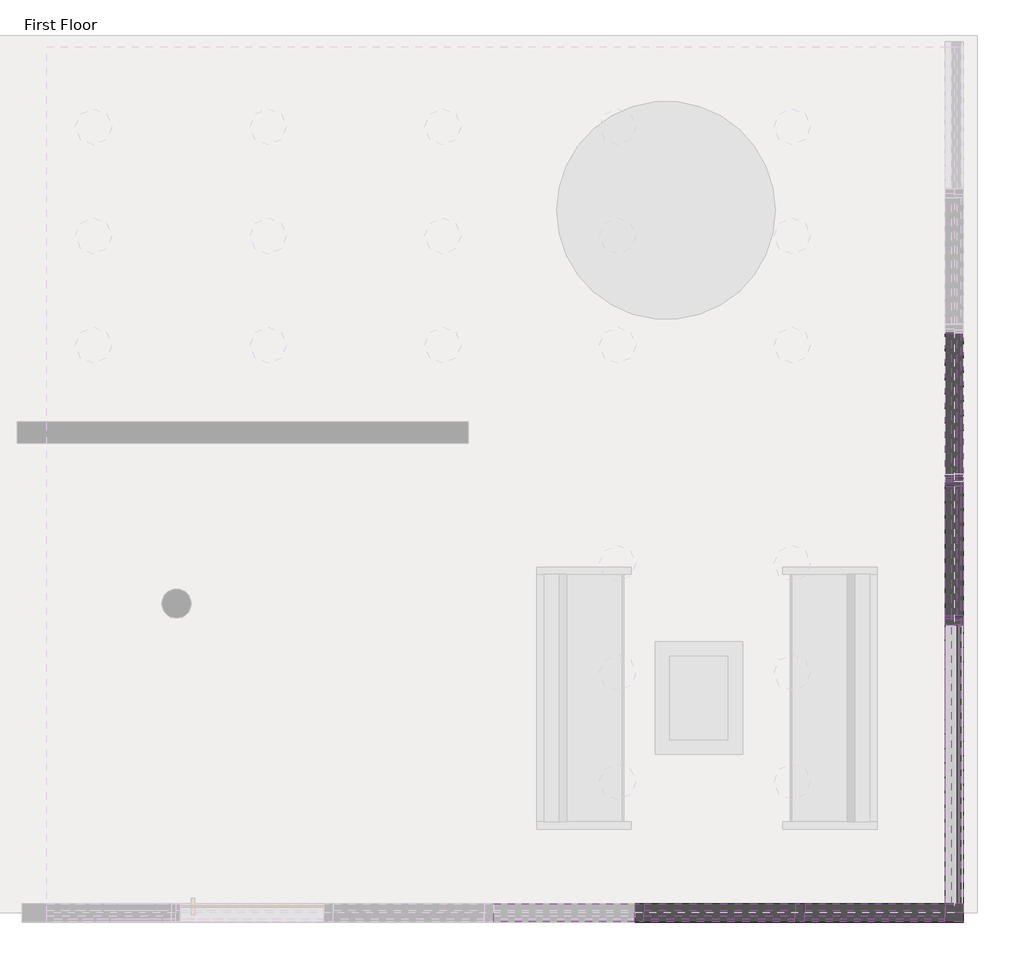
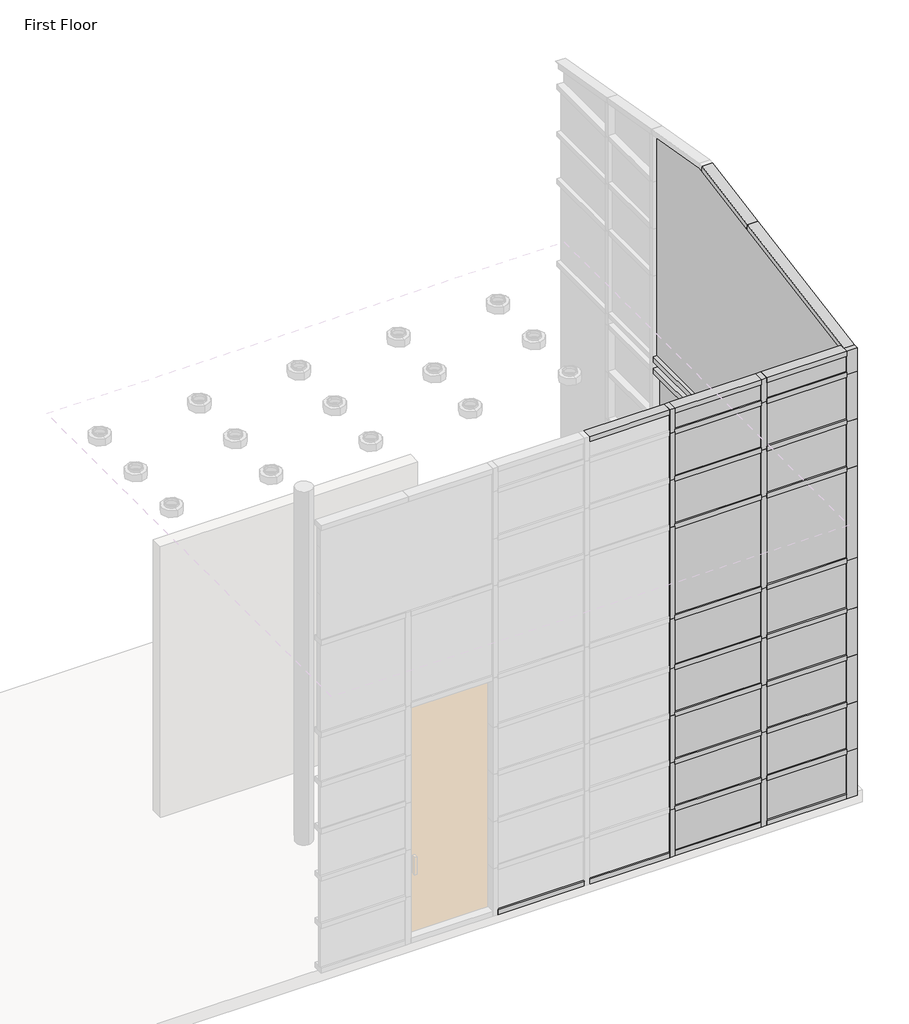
# One storey, part 4 of 5: 77 members, 31 plates.
"""IFC4 building model written with IfcOpenShell, lengths in millimetres."""

from ifc_helpers import new_model, si_unit, origin, place, context, project, spatial, transform, mapped, element, save
from components import member_f9488aa6, member_61850fe3, member_cf64a30b, member_1d60c77e, rectangular_mullion_rectangular_mullion_1_51170729, rectangular_mullion_rectangular_mullion_1_6e77e263, rectangular_mullion_rectangular_mullion_1_75d1e245, rectangular_mullion_rectangular_mullion_1_31744042, rectangular_mullion_rectangular_mullion_1_d7ed0fb9, rectangular_mullion_rectangular_mullion_1_7275bfda, rectangular_mullion_rectangular_mullion_1_b3f2e294, rectangular_mullion_rectangular_mullion_1_fc7f002c, rectangular_mullion_rectangular_mullion_1_369ed99d, rectangular_mullion_rectangular_mullion_1_8e31e22d, rectangular_mullion_rectangular_mullion_1_47123520, rectangular_mullion_rectangular_mullion_1_4af42d76, rectangular_mullion_rectangular_mullion_1_c8f1c27a, rectangular_mullion_rectangular_mullion_1_5249c285, rectangular_mullion_rectangular_mullion_1_ab2acac1, rectangular_mullion_rectangular_mullion_1_227d3ff1, rectangular_mullion_rectangular_mullion_1_0dc72f1f, rectangular_mullion_rectangular_mullion_1_51b61bf9, rectangular_mullion_rectangular_mullion_1_4efc3ea5, system_panel_glazed_664bf825, system_panel_glazed_f51451db, system_panel_glazed_ae41f1da, system_panel_glazed_1f20e292, system_panel_glazed_f780a407, system_panel_glazed_f4e0d20e, system_panel_glazed_d7765e30, system_panel_glazed_9d1674b2, system_panel_glazed_a1942897, system_panel_glazed_5efc551b, system_panel_solid_grey_713b1532, system_panel_solid_grey_88e7eaec, system_panel_solid_grey_35677c19, system_panel_solid_grey_7d6e94b4, system_panel_solid_white_d6818c59, system_panel_solid_white_f1b6422f, system_panel_solid_white_12cb0d74, system_panel_solid_white_223e5efe, system_panel_solid_white_6c12217a, system_panel_solid_white_34ebdb4f, system_panel_solid_white_47daa927

model = new_model("IFC4")

# Units and contexts
model_context = context("Model", 3, world=origin())
ifc_project = project(units=[si_unit("LENGTHUNIT", "METRE", prefix="MILLI")], contexts=[model_context])

# Site, building, storey
site = spatial("IfcSite", under=ifc_project)
building = spatial("IfcBuilding", under=site)
storey = spatial("IfcBuildingStorey", under=building, Name="First Floor", Elevation=0.0)

# Members
placement = place(None, origin())
member_shape = member_f9488aa6(model_context)
element("IfcMember", 1, ObjectType="Quad Corner Mullion : 3\" x 1 1/2\" Quad Mullion", at=placement, inside=storey, context=model_context, shape_type="MappedRepresentation", body=[
    mapped(member_shape, transform((4563.0282307, 6074.9400612, 2438.4), x_axis=(1.0, 0.0, 0.0), y_axis=(0.0, 1.0, 0.0), z_axis=(0.0, 0.0, 1.0))),
])
element("IfcMember", 2, ObjectType="Quad Corner Mullion : 3\" x 1 1/2\" Quad Mullion", at=placement, inside=storey, context=model_context, shape_type="MappedRepresentation", body=[
    mapped(member_shape, transform((4563.0282307, 6074.9400612, 1219.2), x_axis=(1.0, 0.0, 0.0), y_axis=(0.0, 1.0, 0.0), z_axis=(0.0, 0.0, 1.0))),
])
element("IfcMember", 3, ObjectType="Quad Corner Mullion : 3\" x 1 1/2\" Quad Mullion", at=placement, inside=storey, context=model_context, shape_type="MappedRepresentation", body=[
    mapped(member_shape, transform((4563.0282307, 6074.9400612, 5486.4), x_axis=(1.0, 0.0, 0.0), y_axis=(0.0, 1.0, 0.0), z_axis=(0.0, 0.0, 1.0))),
])
element("IfcMember", 4, ObjectType="Quad Corner Mullion : 3\" x 1 1/2\" Quad Mullion", at=placement, inside=storey, context=model_context, shape_type="MappedRepresentation", body=[
    mapped(member_shape, transform((4563.0282307, 6074.9400612, 4876.8), x_axis=(1.0, 0.0, 0.0), y_axis=(0.0, 1.0, 0.0), z_axis=(0.0, 0.0, 1.0))),
])
element("IfcMember", 5, ObjectType="Quad Corner Mullion : 3\" x 1 1/2\" Quad Mullion", at=placement, inside=storey, context=model_context, shape_type="MappedRepresentation", body=[
    mapped(member_shape, transform((4563.0282307, 6074.9400612, 1828.8), x_axis=(1.0, 0.0, 0.0), y_axis=(0.0, 1.0, 0.0), z_axis=(0.0, 0.0, 1.0))),
])
member_2_shape = member_61850fe3(model_context)
element("IfcMember", 6, ObjectType="Quad Corner Mullion : 3\" x 1 1/2\" Quad Mullion", at=placement, inside=storey, context=model_context, shape_type="MappedRepresentation", body=[
    mapped(member_2_shape, transform((4563.0282307, 6074.9400612, 5791.2), x_axis=(1.0, 0.0, 0.0), y_axis=(0.0, 1.0, 0.0), z_axis=(0.0, 0.0, 1.0))),
])
element("IfcMember", 7, ObjectType="Quad Corner Mullion : 3\" x 1 1/2\" Quad Mullion", at=placement, inside=storey, context=model_context, shape_type="MappedRepresentation", body=[
    mapped(member_shape, transform((4563.0282307, 6074.9400612, 609.6), x_axis=(1.0, 0.0, 0.0), y_axis=(0.0, 1.0, 0.0), z_axis=(0.0, 0.0, 1.0))),
])
member_3_shape = member_cf64a30b(model_context)
element("IfcMember", 8, ObjectType="Quad Corner Mullion : 3\" x 1 1/2\" Quad Mullion", at=placement, inside=storey, context=model_context, shape_type="MappedRepresentation", body=[
    mapped(member_3_shape, transform((4563.0282307, 6074.9400612, 4267.2), x_axis=(1.0, 0.0, 0.0), y_axis=(0.0, 1.0, 0.0), z_axis=(0.0, 0.0, 1.0))),
])
member_4_shape = member_1d60c77e(model_context)
element("IfcMember", 9, ObjectType="Quad Corner Mullion : 3\" x 1 1/2\" Quad Mullion", at=placement, inside=storey, context=model_context, shape_type="MappedRepresentation", body=[
    mapped(member_4_shape, transform((4563.0282307, 6074.9400612, 3079.75), x_axis=(1.0, 0.0, 0.0), y_axis=(0.0, 1.0, 0.0), z_axis=(0.0, 0.0, 1.0))),
])
rectangular_mullion_rectangular_mullion_1_shape = rectangular_mullion_rectangular_mullion_1_51170729(model_context)
element("IfcMember", 10, ObjectType="Rectangular Mullion : Rectangular Mullion 1", at=placement, inside=storey, context=model_context, shape_type="MappedRepresentation", body=[
    mapped(rectangular_mullion_rectangular_mullion_1_shape, transform((4563.0282307, 9084.8400612, 2438.4), x_axis=(0.0, -1.0, 0.0), y_axis=(-1.0, 0.0, 0.0), z_axis=(0.0, 0.0, -1.0))),
])
rectangular_mullion_rectangular_mullion_1_2_shape = rectangular_mullion_rectangular_mullion_1_6e77e263(model_context)
element("IfcMember", 11, ObjectType="Rectangular Mullion : Rectangular Mullion 1", at=placement, inside=storey, context=model_context, shape_type="MappedRepresentation", body=[
    mapped(rectangular_mullion_rectangular_mullion_1_2_shape, transform((2363.2068019, 6074.9400612, 0.0), x_axis=(-1.0, 0.0, 0.0), y_axis=(0.0, 1.0, 0.0), z_axis=(0.0, 0.0, -1.0))),
])
element("IfcMember", 12, ObjectType="Rectangular Mullion : Rectangular Mullion 1", at=placement, inside=storey, context=model_context, shape_type="MappedRepresentation", body=[
    mapped(rectangular_mullion_rectangular_mullion_1_2_shape, transform((4563.0282307, 8118.414355, 0.0), x_axis=(0.0, -1.0, 0.0), y_axis=(-1.0, 0.0, 0.0), z_axis=(0.0, 0.0, -1.0))),
])
element("IfcMember", 13, ObjectType="Rectangular Mullion : Rectangular Mullion 1", at=placement, inside=storey, context=model_context, shape_type="MappedRepresentation", body=[
    mapped(rectangular_mullion_rectangular_mullion_1_2_shape, transform((3485.7960878, 6074.9400612, 0.0), x_axis=(-1.0, 0.0, 0.0), y_axis=(0.0, 1.0, 0.0), z_axis=(0.0, 0.0, -1.0))),
])
element("IfcMember", 14, ObjectType="Rectangular Mullion : Rectangular Mullion 1", at=placement, inside=storey, context=model_context, shape_type="MappedRepresentation", body=[
    mapped(rectangular_mullion_rectangular_mullion_1_2_shape, transform((4563.0282307, 9084.8400612, 0.0), x_axis=(0.0, -1.0, 0.0), y_axis=(-1.0, 0.0, 0.0), z_axis=(0.0, 0.0, -1.0))),
])
element("IfcMember", 15, ObjectType="Rectangular Mullion : Rectangular Mullion 1", at=placement, inside=storey, context=model_context, shape_type="MappedRepresentation", body=[
    mapped(rectangular_mullion_rectangular_mullion_1_2_shape, transform((3485.7960878, 6074.9400612, 1219.2), x_axis=(-1.0, 0.0, 0.0), y_axis=(0.0, 1.0, 0.0), z_axis=(0.0, 0.0, -1.0))),
])
element("IfcMember", 16, ObjectType="Rectangular Mullion : Rectangular Mullion 1", at=placement, inside=storey, context=model_context, shape_type="MappedRepresentation", body=[
    mapped(rectangular_mullion_rectangular_mullion_1_2_shape, transform((2363.2068019, 6074.9400612, 1219.2), x_axis=(-1.0, 0.0, 0.0), y_axis=(0.0, 1.0, 0.0), z_axis=(0.0, 0.0, -1.0))),
])
element("IfcMember", 17, ObjectType="Rectangular Mullion : Rectangular Mullion 1", at=placement, inside=storey, context=model_context, shape_type="MappedRepresentation", body=[
    mapped(rectangular_mullion_rectangular_mullion_1_2_shape, transform((3485.7960878, 6074.9400612, 1828.8), x_axis=(-1.0, 0.0, 0.0), y_axis=(0.0, 1.0, 0.0), z_axis=(0.0, 0.0, -1.0))),
])
element("IfcMember", 18, ObjectType="Rectangular Mullion : Rectangular Mullion 1", at=placement, inside=storey, context=model_context, shape_type="MappedRepresentation", body=[
    mapped(rectangular_mullion_rectangular_mullion_1_2_shape, transform((2363.2068019, 6074.9400612, 1828.8), x_axis=(-1.0, 0.0, 0.0), y_axis=(0.0, 1.0, 0.0), z_axis=(0.0, 0.0, -1.0))),
])
element("IfcMember", 19, ObjectType="Rectangular Mullion : Rectangular Mullion 1", at=placement, inside=storey, context=model_context, shape_type="MappedRepresentation", body=[
    mapped(rectangular_mullion_rectangular_mullion_1_2_shape, transform((3485.7960878, 6074.9400612, 609.6), x_axis=(-1.0, 0.0, 0.0), y_axis=(0.0, 1.0, 0.0), z_axis=(0.0, 0.0, -1.0))),
])
element("IfcMember", 20, ObjectType="Rectangular Mullion : Rectangular Mullion 1", at=placement, inside=storey, context=model_context, shape_type="MappedRepresentation", body=[
    mapped(rectangular_mullion_rectangular_mullion_1_2_shape, transform((2363.2068019, 6074.9400612, 609.6), x_axis=(-1.0, 0.0, 0.0), y_axis=(0.0, 1.0, 0.0), z_axis=(0.0, 0.0, -1.0))),
])
element("IfcMember", 21, ObjectType="Rectangular Mullion : Rectangular Mullion 1", at=placement, inside=storey, context=model_context, shape_type="MappedRepresentation", body=[
    mapped(rectangular_mullion_rectangular_mullion_1_2_shape, transform((3485.7960878, 6074.9400612, 4876.8), x_axis=(-1.0, 0.0, 0.0), y_axis=(0.0, 1.0, 0.0), z_axis=(0.0, 0.0, -1.0))),
])
element("IfcMember", 22, ObjectType="Rectangular Mullion : Rectangular Mullion 1", at=placement, inside=storey, context=model_context, shape_type="MappedRepresentation", body=[
    mapped(rectangular_mullion_rectangular_mullion_1_2_shape, transform((2363.2068019, 6074.9400612, 4876.8), x_axis=(-1.0, 0.0, 0.0), y_axis=(0.0, 1.0, 0.0), z_axis=(0.0, 0.0, -1.0))),
])
element("IfcMember", 23, ObjectType="Rectangular Mullion : Rectangular Mullion 1", at=placement, inside=storey, context=model_context, shape_type="MappedRepresentation", body=[
    mapped(rectangular_mullion_rectangular_mullion_1_2_shape, transform((3485.7960878, 6074.9400612, 4267.2), x_axis=(-1.0, 0.0, 0.0), y_axis=(0.0, 1.0, 0.0), z_axis=(0.0, 0.0, -1.0))),
])
element("IfcMember", 24, ObjectType="Rectangular Mullion : Rectangular Mullion 1", at=placement, inside=storey, context=model_context, shape_type="MappedRepresentation", body=[
    mapped(rectangular_mullion_rectangular_mullion_1_2_shape, transform((2363.2068019, 6074.9400612, 4267.2), x_axis=(-1.0, 0.0, 0.0), y_axis=(0.0, 1.0, 0.0), z_axis=(0.0, 0.0, -1.0))),
])
element("IfcMember", 25, ObjectType="Rectangular Mullion : Rectangular Mullion 1", at=placement, inside=storey, context=model_context, shape_type="MappedRepresentation", body=[
    mapped(rectangular_mullion_rectangular_mullion_1_2_shape, transform((4563.0282307, 8118.414355, 2438.4), x_axis=(0.0, -1.0, 0.0), y_axis=(-1.0, 0.0, 0.0), z_axis=(0.0, 0.0, -1.0))),
])
element("IfcMember", 26, ObjectType="Rectangular Mullion : Rectangular Mullion 1", at=placement, inside=storey, context=model_context, shape_type="MappedRepresentation", body=[
    mapped(rectangular_mullion_rectangular_mullion_1_2_shape, transform((4563.0282307, 9084.8400612, 1219.2), x_axis=(0.0, -1.0, 0.0), y_axis=(-1.0, 0.0, 0.0), z_axis=(0.0, 0.0, -1.0))),
])
element("IfcMember", 27, ObjectType="Rectangular Mullion : Rectangular Mullion 1", at=placement, inside=storey, context=model_context, shape_type="MappedRepresentation", body=[
    mapped(rectangular_mullion_rectangular_mullion_1_2_shape, transform((4563.0282307, 8118.414355, 1219.2), x_axis=(0.0, -1.0, 0.0), y_axis=(-1.0, 0.0, 0.0), z_axis=(0.0, 0.0, -1.0))),
])
element("IfcMember", 28, ObjectType="Rectangular Mullion : Rectangular Mullion 1", at=placement, inside=storey, context=model_context, shape_type="MappedRepresentation", body=[
    mapped(rectangular_mullion_rectangular_mullion_1_2_shape, transform((4563.0282307, 9084.8400612, 1828.8), x_axis=(0.0, -1.0, 0.0), y_axis=(-1.0, 0.0, 0.0), z_axis=(0.0, 0.0, -1.0))),
])
element("IfcMember", 29, ObjectType="Rectangular Mullion : Rectangular Mullion 1", at=placement, inside=storey, context=model_context, shape_type="MappedRepresentation", body=[
    mapped(rectangular_mullion_rectangular_mullion_1_2_shape, transform((4563.0282307, 8118.414355, 1828.8), x_axis=(0.0, -1.0, 0.0), y_axis=(-1.0, 0.0, 0.0), z_axis=(0.0, 0.0, -1.0))),
])
element("IfcMember", 30, ObjectType="Rectangular Mullion : Rectangular Mullion 1", at=placement, inside=storey, context=model_context, shape_type="MappedRepresentation", body=[
    mapped(rectangular_mullion_rectangular_mullion_1_2_shape, transform((4563.0282307, 9084.8400612, 609.6), x_axis=(0.0, -1.0, 0.0), y_axis=(-1.0, 0.0, 0.0), z_axis=(0.0, 0.0, -1.0))),
])
element("IfcMember", 31, ObjectType="Rectangular Mullion : Rectangular Mullion 1", at=placement, inside=storey, context=model_context, shape_type="MappedRepresentation", body=[
    mapped(rectangular_mullion_rectangular_mullion_1_2_shape, transform((4563.0282307, 8118.414355, 609.6), x_axis=(0.0, -1.0, 0.0), y_axis=(-1.0, 0.0, 0.0), z_axis=(0.0, 0.0, -1.0))),
])
rectangular_mullion_rectangular_mullion_1_3_shape = rectangular_mullion_rectangular_mullion_1_75d1e245(model_context)
element("IfcMember", 32, ObjectType="Rectangular Mullion : Rectangular Mullion 1", at=placement, inside=storey, context=model_context, shape_type="MappedRepresentation", body=[
    mapped(rectangular_mullion_rectangular_mullion_1_3_shape, transform((3485.7960878, 6074.9400612, 5486.4), x_axis=(-1.0, 0.0, 0.0), y_axis=(0.0, 1.0, 0.0), z_axis=(0.0, 0.0, -1.0))),
])
element("IfcMember", 33, ObjectType="Rectangular Mullion : Rectangular Mullion 1", at=placement, inside=storey, context=model_context, shape_type="MappedRepresentation", body=[
    mapped(rectangular_mullion_rectangular_mullion_1_3_shape, transform((2363.2068019, 6074.9400612, 5486.4), x_axis=(-1.0, 0.0, 0.0), y_axis=(0.0, 1.0, 0.0), z_axis=(0.0, 0.0, -1.0))),
])
rectangular_mullion_rectangular_mullion_1_4_shape = rectangular_mullion_rectangular_mullion_1_31744042(model_context)
element("IfcMember", 34, ObjectType="Rectangular Mullion : Rectangular Mullion 1", at=placement, inside=storey, context=model_context, shape_type="MappedRepresentation", body=[
    mapped(rectangular_mullion_rectangular_mullion_1_4_shape, transform((4563.0282307, 8118.414355, 3048.0), x_axis=(0.0, -1.0, 0.0), y_axis=(-1.0, 0.0, 0.0), z_axis=(0.0, 0.0, -1.0))),
])
rectangular_mullion_rectangular_mullion_1_5_shape = rectangular_mullion_rectangular_mullion_1_d7ed0fb9(model_context)
element("IfcMember", 35, ObjectType="Rectangular Mullion : Rectangular Mullion 1", at=placement, inside=storey, context=model_context, shape_type="MappedRepresentation", body=[
    mapped(rectangular_mullion_rectangular_mullion_1_5_shape, transform((3517.5460878, 6074.9400612, 3079.75), x_axis=(0.0, 0.0, 1.0), y_axis=(0.0, 1.0, 0.0), z_axis=(-1.0, 0.0, 0.0))),
])
element("IfcMember", 36, ObjectType="Rectangular Mullion : Rectangular Mullion 1", at=placement, inside=storey, context=model_context, shape_type="MappedRepresentation", body=[
    mapped(rectangular_mullion_rectangular_mullion_1_5_shape, transform((3517.5460878, 6074.9400612, 2438.4), x_axis=(0.0, 0.0, 1.0), y_axis=(0.0, 1.0, 0.0), z_axis=(-1.0, 0.0, 0.0))),
])
element("IfcMember", 37, ObjectType="Rectangular Mullion : Rectangular Mullion 1", at=placement, inside=storey, context=model_context, shape_type="MappedRepresentation", body=[
    mapped(rectangular_mullion_rectangular_mullion_1_5_shape, transform((3517.5460878, 6074.9400612, 1219.2), x_axis=(0.0, 0.0, 1.0), y_axis=(0.0, 1.0, 0.0), z_axis=(-1.0, 0.0, 0.0))),
])
element("IfcMember", 38, ObjectType="Rectangular Mullion : Rectangular Mullion 1", at=placement, inside=storey, context=model_context, shape_type="MappedRepresentation", body=[
    mapped(rectangular_mullion_rectangular_mullion_1_5_shape, transform((3517.5460878, 6074.9400612, 1828.8), x_axis=(0.0, 0.0, 1.0), y_axis=(0.0, 1.0, 0.0), z_axis=(-1.0, 0.0, 0.0))),
])
element("IfcMember", 39, ObjectType="Rectangular Mullion : Rectangular Mullion 1", at=placement, inside=storey, context=model_context, shape_type="MappedRepresentation", body=[
    mapped(rectangular_mullion_rectangular_mullion_1_5_shape, transform((3517.5460878, 6074.9400612, 609.6), x_axis=(0.0, 0.0, 1.0), y_axis=(0.0, 1.0, 0.0), z_axis=(-1.0, 0.0, 0.0))),
])
element("IfcMember", 40, ObjectType="Rectangular Mullion : Rectangular Mullion 1", at=placement, inside=storey, context=model_context, shape_type="MappedRepresentation", body=[
    mapped(rectangular_mullion_rectangular_mullion_1_5_shape, transform((3517.5460878, 6074.9400612, 4876.8), x_axis=(0.0, 0.0, 1.0), y_axis=(0.0, 1.0, 0.0), z_axis=(-1.0, 0.0, 0.0))),
])
element("IfcMember", 41, ObjectType="Rectangular Mullion : Rectangular Mullion 1", at=placement, inside=storey, context=model_context, shape_type="MappedRepresentation", body=[
    mapped(rectangular_mullion_rectangular_mullion_1_5_shape, transform((3517.5460878, 6074.9400612, 5486.4), x_axis=(0.0, 0.0, 1.0), y_axis=(0.0, 1.0, 0.0), z_axis=(-1.0, 0.0, 0.0))),
])
element("IfcMember", 42, ObjectType="Rectangular Mullion : Rectangular Mullion 1", at=placement, inside=storey, context=model_context, shape_type="MappedRepresentation", body=[
    mapped(rectangular_mullion_rectangular_mullion_1_5_shape, transform((3517.5460878, 6074.9400612, 4267.2), x_axis=(0.0, 0.0, 1.0), y_axis=(0.0, 1.0, 0.0), z_axis=(-1.0, 0.0, 0.0))),
])
rectangular_mullion_rectangular_mullion_1_6_shape = rectangular_mullion_rectangular_mullion_1_7275bfda(model_context)
element("IfcMember", 43, ObjectType="Rectangular Mullion : Rectangular Mullion 1", at=placement, inside=storey, context=model_context, shape_type="MappedRepresentation", body=[
    mapped(rectangular_mullion_rectangular_mullion_1_6_shape, transform((4499.5282307, 6074.9400612, 0.0), x_axis=(0.0, 0.0, -1.0), y_axis=(0.0, 1.0, 0.0), z_axis=(1.0, 0.0, 0.0))),
])
element("IfcMember", 44, ObjectType="Rectangular Mullion : Rectangular Mullion 1", at=placement, inside=storey, context=model_context, shape_type="MappedRepresentation", body=[
    mapped(rectangular_mullion_rectangular_mullion_1_6_shape, transform((3517.5460878, 6074.9400612, 5791.2), x_axis=(0.0, 0.0, 1.0), y_axis=(0.0, 1.0, 0.0), z_axis=(-1.0, 0.0, 0.0))),
])
element("IfcMember", 45, ObjectType="Rectangular Mullion : Rectangular Mullion 1", at=placement, inside=storey, context=model_context, shape_type="MappedRepresentation", body=[
    mapped(rectangular_mullion_rectangular_mullion_1_shape, transform((3485.7960878, 6074.9400612, 2438.4), x_axis=(-1.0, 0.0, 0.0), y_axis=(0.0, 1.0, 0.0), z_axis=(0.0, 0.0, -1.0))),
])
element("IfcMember", 46, ObjectType="Rectangular Mullion : Rectangular Mullion 1", at=placement, inside=storey, context=model_context, shape_type="MappedRepresentation", body=[
    mapped(rectangular_mullion_rectangular_mullion_1_shape, transform((2363.2068019, 6074.9400612, 2438.4), x_axis=(-1.0, 0.0, 0.0), y_axis=(0.0, 1.0, 0.0), z_axis=(0.0, 0.0, -1.0))),
])
rectangular_mullion_rectangular_mullion_1_7_shape = rectangular_mullion_rectangular_mullion_1_b3f2e294(model_context)
element("IfcMember", 47, ObjectType="Rectangular Mullion : Rectangular Mullion 1", at=placement, inside=storey, context=model_context, shape_type="MappedRepresentation", body=[
    mapped(rectangular_mullion_rectangular_mullion_1_7_shape, transform((3485.7960878, 6074.9400612, 3079.75), x_axis=(-1.0, 0.0, 0.0), y_axis=(0.0, 1.0, 0.0), z_axis=(0.0, 0.0, -1.0))),
])
element("IfcMember", 48, ObjectType="Rectangular Mullion : Rectangular Mullion 1", at=placement, inside=storey, context=model_context, shape_type="MappedRepresentation", body=[
    mapped(rectangular_mullion_rectangular_mullion_1_7_shape, transform((2363.2068019, 6074.9400612, 3079.75), x_axis=(-1.0, 0.0, 0.0), y_axis=(0.0, 1.0, 0.0), z_axis=(0.0, 0.0, -1.0))),
])
rectangular_mullion_rectangular_mullion_1_8_shape = rectangular_mullion_rectangular_mullion_1_fc7f002c(model_context)
element("IfcMember", 49, ObjectType="Rectangular Mullion : Rectangular Mullion 1", at=placement, inside=storey, context=model_context, shape_type="MappedRepresentation", body=[
    mapped(rectangular_mullion_rectangular_mullion_1_8_shape, transform((4563.0282307, 9084.8400612, 3197.1919949), x_axis=(0.0, 0.0, 1.0), y_axis=(-1.0, 0.0, 0.0), z_axis=(0.0, -1.0, 0.0))),
])
rectangular_mullion_rectangular_mullion_1_9_shape = rectangular_mullion_rectangular_mullion_1_369ed99d(model_context)
element("IfcMember", 50, ObjectType="Rectangular Mullion : Rectangular Mullion 1", at=placement, inside=storey, context=model_context, shape_type="MappedRepresentation", body=[
    mapped(rectangular_mullion_rectangular_mullion_1_9_shape, transform((4563.0282307, 6138.4400612, 3197.1919949), x_axis=(0.0, 0.0, 1.0), y_axis=(-1.0, 0.0, 0.0), z_axis=(0.0, -1.0, 0.0))),
])
rectangular_mullion_rectangular_mullion_1_10_shape = rectangular_mullion_rectangular_mullion_1_8e31e22d(model_context)
element("IfcMember", 51, ObjectType="Rectangular Mullion : Rectangular Mullion 1", at=placement, inside=storey, context=model_context, shape_type="MappedRepresentation", body=[
    mapped(rectangular_mullion_rectangular_mullion_1_10_shape, transform((4563.0282307, 8150.164355, 3197.1919949), x_axis=(0.0, 0.0, 1.0), y_axis=(-1.0, 0.0, 0.0), z_axis=(0.0, -1.0, 0.0))),
])
rectangular_mullion_rectangular_mullion_1_11_shape = rectangular_mullion_rectangular_mullion_1_47123520(model_context)
element("IfcMember", 52, ObjectType="Rectangular Mullion : Rectangular Mullion 1", at=placement, inside=storey, context=model_context, shape_type="MappedRepresentation", body=[
    mapped(rectangular_mullion_rectangular_mullion_1_11_shape, transform((4563.0282307, 9116.5900612, 2438.4), x_axis=(0.0, 0.0, 1.0), y_axis=(-1.0, 0.0, 0.0), z_axis=(0.0, -1.0, 0.0))),
])
element("IfcMember", 53, ObjectType="Rectangular Mullion : Rectangular Mullion 1", at=placement, inside=storey, context=model_context, shape_type="MappedRepresentation", body=[
    mapped(rectangular_mullion_rectangular_mullion_1_11_shape, transform((4563.0282307, 9116.5900612, 1219.2), x_axis=(0.0, 0.0, 1.0), y_axis=(-1.0, 0.0, 0.0), z_axis=(0.0, -1.0, 0.0))),
])
element("IfcMember", 54, ObjectType="Rectangular Mullion : Rectangular Mullion 1", at=placement, inside=storey, context=model_context, shape_type="MappedRepresentation", body=[
    mapped(rectangular_mullion_rectangular_mullion_1_11_shape, transform((4563.0282307, 9116.5900612, 3048.0), x_axis=(0.0, 0.0, 1.0), y_axis=(-1.0, 0.0, 0.0), z_axis=(0.0, -1.0, 0.0))),
])
element("IfcMember", 55, ObjectType="Rectangular Mullion : Rectangular Mullion 1", at=placement, inside=storey, context=model_context, shape_type="MappedRepresentation", body=[
    mapped(rectangular_mullion_rectangular_mullion_1_11_shape, transform((4563.0282307, 9116.5900612, 1828.8), x_axis=(0.0, 0.0, 1.0), y_axis=(-1.0, 0.0, 0.0), z_axis=(0.0, -1.0, 0.0))),
])
element("IfcMember", 56, ObjectType="Rectangular Mullion : Rectangular Mullion 1", at=placement, inside=storey, context=model_context, shape_type="MappedRepresentation", body=[
    mapped(rectangular_mullion_rectangular_mullion_1_11_shape, transform((4563.0282307, 9116.5900612, 609.6), x_axis=(0.0, 0.0, 1.0), y_axis=(-1.0, 0.0, 0.0), z_axis=(0.0, -1.0, 0.0))),
])
rectangular_mullion_rectangular_mullion_1_12_shape = rectangular_mullion_rectangular_mullion_1_4af42d76(model_context)
element("IfcMember", 57, ObjectType="Rectangular Mullion : Rectangular Mullion 1", at=placement, inside=storey, context=model_context, shape_type="MappedRepresentation", body=[
    mapped(rectangular_mullion_rectangular_mullion_1_12_shape, transform((4563.0282307, 8150.164355, 2438.4), x_axis=(0.0, 0.0, 1.0), y_axis=(-1.0, 0.0, 0.0), z_axis=(0.0, -1.0, 0.0))),
])
element("IfcMember", 58, ObjectType="Rectangular Mullion : Rectangular Mullion 1", at=placement, inside=storey, context=model_context, shape_type="MappedRepresentation", body=[
    mapped(rectangular_mullion_rectangular_mullion_1_12_shape, transform((4563.0282307, 8150.164355, 1219.2), x_axis=(0.0, 0.0, 1.0), y_axis=(-1.0, 0.0, 0.0), z_axis=(0.0, -1.0, 0.0))),
])
element("IfcMember", 59, ObjectType="Rectangular Mullion : Rectangular Mullion 1", at=placement, inside=storey, context=model_context, shape_type="MappedRepresentation", body=[
    mapped(rectangular_mullion_rectangular_mullion_1_12_shape, transform((4563.0282307, 8150.164355, 3048.0), x_axis=(0.0, 0.0, 1.0), y_axis=(-1.0, 0.0, 0.0), z_axis=(0.0, -1.0, 0.0))),
])
element("IfcMember", 60, ObjectType="Rectangular Mullion : Rectangular Mullion 1", at=placement, inside=storey, context=model_context, shape_type="MappedRepresentation", body=[
    mapped(rectangular_mullion_rectangular_mullion_1_12_shape, transform((4563.0282307, 8150.164355, 1828.8), x_axis=(0.0, 0.0, 1.0), y_axis=(-1.0, 0.0, 0.0), z_axis=(0.0, -1.0, 0.0))),
])
element("IfcMember", 61, ObjectType="Rectangular Mullion : Rectangular Mullion 1", at=placement, inside=storey, context=model_context, shape_type="MappedRepresentation", body=[
    mapped(rectangular_mullion_rectangular_mullion_1_12_shape, transform((4563.0282307, 8150.164355, 609.6), x_axis=(0.0, 0.0, 1.0), y_axis=(-1.0, 0.0, 0.0), z_axis=(0.0, -1.0, 0.0))),
])
rectangular_mullion_rectangular_mullion_1_13_shape = rectangular_mullion_rectangular_mullion_1_c8f1c27a(model_context)
element("IfcMember", 62, ObjectType="Rectangular Mullion : Rectangular Mullion 1", at=placement, inside=storey, context=model_context, shape_type="MappedRepresentation", body=[
    mapped(rectangular_mullion_rectangular_mullion_1_13_shape, transform((4563.0282307, 8086.664355, 0.0), x_axis=(0.0, 0.0, -1.0), y_axis=(-1.0, 0.0, 0.0), z_axis=(0.0, 1.0, 0.0))),
])
rectangular_mullion_rectangular_mullion_1_14_shape = rectangular_mullion_rectangular_mullion_1_5249c285(model_context)
element("IfcMember", 63, ObjectType="Rectangular Mullion : Rectangular Mullion 1", at=placement, inside=storey, context=model_context, shape_type="MappedRepresentation", body=[
    mapped(rectangular_mullion_rectangular_mullion_1_14_shape, transform((2394.9568019, 6074.9400612, 3079.75), x_axis=(0.0, 0.0, 1.0), y_axis=(0.0, 1.0, 0.0), z_axis=(-1.0, 0.0, 0.0))),
])
element("IfcMember", 64, ObjectType="Rectangular Mullion : Rectangular Mullion 1", at=placement, inside=storey, context=model_context, shape_type="MappedRepresentation", body=[
    mapped(rectangular_mullion_rectangular_mullion_1_14_shape, transform((2394.9568019, 6074.9400612, 2438.4), x_axis=(0.0, 0.0, 1.0), y_axis=(0.0, 1.0, 0.0), z_axis=(-1.0, 0.0, 0.0))),
])
element("IfcMember", 65, ObjectType="Rectangular Mullion : Rectangular Mullion 1", at=placement, inside=storey, context=model_context, shape_type="MappedRepresentation", body=[
    mapped(rectangular_mullion_rectangular_mullion_1_14_shape, transform((2394.9568019, 6074.9400612, 1219.2), x_axis=(0.0, 0.0, 1.0), y_axis=(0.0, 1.0, 0.0), z_axis=(-1.0, 0.0, 0.0))),
])
element("IfcMember", 66, ObjectType="Rectangular Mullion : Rectangular Mullion 1", at=placement, inside=storey, context=model_context, shape_type="MappedRepresentation", body=[
    mapped(rectangular_mullion_rectangular_mullion_1_14_shape, transform((2394.9568019, 6074.9400612, 1828.8), x_axis=(0.0, 0.0, 1.0), y_axis=(0.0, 1.0, 0.0), z_axis=(-1.0, 0.0, 0.0))),
])
element("IfcMember", 67, ObjectType="Rectangular Mullion : Rectangular Mullion 1", at=placement, inside=storey, context=model_context, shape_type="MappedRepresentation", body=[
    mapped(rectangular_mullion_rectangular_mullion_1_14_shape, transform((2394.9568019, 6074.9400612, 609.6), x_axis=(0.0, 0.0, 1.0), y_axis=(0.0, 1.0, 0.0), z_axis=(-1.0, 0.0, 0.0))),
])
element("IfcMember", 68, ObjectType="Rectangular Mullion : Rectangular Mullion 1", at=placement, inside=storey, context=model_context, shape_type="MappedRepresentation", body=[
    mapped(rectangular_mullion_rectangular_mullion_1_14_shape, transform((2394.9568019, 6074.9400612, 4876.8), x_axis=(0.0, 0.0, 1.0), y_axis=(0.0, 1.0, 0.0), z_axis=(-1.0, 0.0, 0.0))),
])
element("IfcMember", 69, ObjectType="Rectangular Mullion : Rectangular Mullion 1", at=placement, inside=storey, context=model_context, shape_type="MappedRepresentation", body=[
    mapped(rectangular_mullion_rectangular_mullion_1_14_shape, transform((2394.9568019, 6074.9400612, 5486.4), x_axis=(0.0, 0.0, 1.0), y_axis=(0.0, 1.0, 0.0), z_axis=(-1.0, 0.0, 0.0))),
])
element("IfcMember", 70, ObjectType="Rectangular Mullion : Rectangular Mullion 1", at=placement, inside=storey, context=model_context, shape_type="MappedRepresentation", body=[
    mapped(rectangular_mullion_rectangular_mullion_1_14_shape, transform((2394.9568019, 6074.9400612, 4267.2), x_axis=(0.0, 0.0, 1.0), y_axis=(0.0, 1.0, 0.0), z_axis=(-1.0, 0.0, 0.0))),
])
rectangular_mullion_rectangular_mullion_1_15_shape = rectangular_mullion_rectangular_mullion_1_ab2acac1(model_context)
element("IfcMember", 71, ObjectType="Rectangular Mullion : Rectangular Mullion 1", at=placement, inside=storey, context=model_context, shape_type="MappedRepresentation", body=[
    mapped(rectangular_mullion_rectangular_mullion_1_15_shape, transform((2331.4568019, 6074.9400612, 0.0), x_axis=(0.0, 0.0, -1.0), y_axis=(0.0, 1.0, 0.0), z_axis=(1.0, 0.0, 0.0))),
])
rectangular_mullion_rectangular_mullion_1_16_shape = rectangular_mullion_rectangular_mullion_1_227d3ff1(model_context)
element("IfcMember", 72, ObjectType="Rectangular Mullion : Rectangular Mullion 1", at=placement, inside=storey, context=model_context, shape_type="MappedRepresentation", body=[
    mapped(rectangular_mullion_rectangular_mullion_1_16_shape, transform((3454.0460878, 6074.9400612, 0.0), x_axis=(0.0, 0.0, -1.0), y_axis=(0.0, 1.0, 0.0), z_axis=(1.0, 0.0, 0.0))),
])
rectangular_mullion_rectangular_mullion_1_17_shape = rectangular_mullion_rectangular_mullion_1_0dc72f1f(model_context)
element("IfcMember", 73, ObjectType="Rectangular Mullion : Rectangular Mullion 1", at=placement, inside=storey, context=model_context, shape_type="MappedRepresentation", body=[
    mapped(rectangular_mullion_rectangular_mullion_1_17_shape, transform((1283.7068021, 6074.9400612, 0.0), x_axis=(0.0, 0.0, -1.0), y_axis=(0.0, 1.0, 0.0), z_axis=(1.0, 0.0, 0.0))),
])
element("IfcMember", 74, ObjectType="Rectangular Mullion : Rectangular Mullion 1", at=placement, inside=storey, context=model_context, shape_type="MappedRepresentation", body=[
    mapped(rectangular_mullion_rectangular_mullion_1_16_shape, transform((2394.9568019, 6074.9400612, 5791.2), x_axis=(0.0, 0.0, 1.0), y_axis=(0.0, 1.0, 0.0), z_axis=(-1.0, 0.0, 0.0))),
])
element("IfcMember", 75, ObjectType="Rectangular Mullion : Rectangular Mullion 1", at=placement, inside=storey, context=model_context, shape_type="MappedRepresentation", body=[
    mapped(rectangular_mullion_rectangular_mullion_1_15_shape, transform((1347.2068021, 6074.9400612, 5791.2), x_axis=(0.0, 0.0, 1.0), y_axis=(0.0, 1.0, 0.0), z_axis=(-1.0, 0.0, 0.0))),
])
rectangular_mullion_rectangular_mullion_1_18_shape = rectangular_mullion_rectangular_mullion_1_51b61bf9(model_context)
element("IfcMember", 76, ObjectType="Rectangular Mullion : Rectangular Mullion 1", at=placement, inside=storey, context=model_context, shape_type="MappedRepresentation", body=[
    mapped(rectangular_mullion_rectangular_mullion_1_18_shape, transform((4563.0282307, 6074.9400612, 5791.2), x_axis=(0.0, -0.17364817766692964, 0.9848077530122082), y_axis=(-1.0, 0.0, 0.0), z_axis=(0.0, -0.9848077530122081, -0.1736481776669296))),
])
rectangular_mullion_rectangular_mullion_1_19_shape = rectangular_mullion_rectangular_mullion_1_4efc3ea5(model_context)
element("IfcMember", 77, ObjectType="Rectangular Mullion : Rectangular Mullion 1", at=placement, inside=storey, context=model_context, shape_type="MappedRepresentation", body=[
    mapped(rectangular_mullion_rectangular_mullion_1_19_shape, transform((4563.0282307, 8118.414355, 6151.5196524), x_axis=(0.0, -0.17364817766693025, 0.9848077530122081), y_axis=(-1.0, 0.0, 0.0), z_axis=(0.0, -0.984807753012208, -0.17364817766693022))),
])

# Plates
system_panel_glazed_shape = system_panel_glazed_664bf825(model_context)
element("IfcPlate", 78, ObjectType="System Panel : Glazed", at=placement, inside=storey, context=model_context, shape_type="MappedRepresentation", body=[
    mapped(system_panel_glazed_shape, transform((4008.5371593, 6074.9400612, 1250.95), x_axis=(-1.0, 0.0, 0.0), y_axis=(0.0, -1.0, 0.0), z_axis=(0.0, 0.0, 1.0))),
])
element("IfcPlate", 79, ObjectType="System Panel : Glazed", at=placement, inside=storey, context=model_context, shape_type="MappedRepresentation", body=[
    mapped(system_panel_glazed_shape, transform((4008.5371593, 6074.9400612, 1860.55), x_axis=(-1.0, 0.0, 0.0), y_axis=(0.0, -1.0, 0.0), z_axis=(0.0, 0.0, 1.0))),
])
element("IfcPlate", 80, ObjectType="System Panel : Glazed", at=placement, inside=storey, context=model_context, shape_type="MappedRepresentation", body=[
    mapped(system_panel_glazed_shape, transform((4008.5371593, 6074.9400612, 641.35), x_axis=(-1.0, 0.0, 0.0), y_axis=(0.0, -1.0, 0.0), z_axis=(0.0, 0.0, 1.0))),
])
system_panel_glazed_2_shape = system_panel_glazed_f51451db(model_context)
element("IfcPlate", 81, ObjectType="System Panel : Glazed", at=placement, inside=storey, context=model_context, shape_type="MappedRepresentation", body=[
    mapped(system_panel_glazed_2_shape, transform((4008.5371593, 6074.9400612, 5518.15), x_axis=(-1.0, 0.0, 0.0), y_axis=(0.0, -1.0, 0.0), z_axis=(0.0, 0.0, 1.0))),
])
system_panel_glazed_3_shape = system_panel_glazed_ae41f1da(model_context)
element("IfcPlate", 82, ObjectType="System Panel : Glazed", at=placement, inside=storey, context=model_context, shape_type="MappedRepresentation", body=[
    mapped(system_panel_glazed_3_shape, transform((4008.5371593, 6074.9400612, 2470.15), x_axis=(-1.0, 0.0, 0.0), y_axis=(0.0, -1.0, 0.0), z_axis=(0.0, 0.0, 1.0))),
])
system_panel_glazed_4_shape = system_panel_glazed_1f20e292(model_context)
element("IfcPlate", 83, ObjectType="System Panel : Glazed", at=placement, inside=storey, context=model_context, shape_type="MappedRepresentation", body=[
    mapped(system_panel_glazed_4_shape, transform((4563.0282307, 7112.5522081, 63.5), x_axis=(0.0, -1.0, 0.0), y_axis=(1.0, 0.0, 0.0), z_axis=(0.0, 0.0, 1.0))),
])
system_panel_glazed_5_shape = system_panel_glazed_f780a407(model_context)
element("IfcPlate", 84, ObjectType="System Panel : Glazed", at=placement, inside=storey, context=model_context, shape_type="MappedRepresentation", body=[
    mapped(system_panel_glazed_5_shape, transform((4563.0282307, 9618.8529143, 2470.15), x_axis=(0.0, -1.0, 0.0), y_axis=(1.0, 0.0, 0.0), z_axis=(0.0, 0.0, 1.0))),
])
element("IfcPlate", 85, ObjectType="System Panel : Glazed", at=placement, inside=storey, context=model_context, shape_type="MappedRepresentation", body=[
    mapped(system_panel_glazed_5_shape, transform((4563.0282307, 9618.8529143, 1860.55), x_axis=(0.0, -1.0, 0.0), y_axis=(1.0, 0.0, 0.0), z_axis=(0.0, 0.0, 1.0))),
])
system_panel_glazed_6_shape = system_panel_glazed_f4e0d20e(model_context)
element("IfcPlate", 86, ObjectType="System Panel : Glazed", at=placement, inside=storey, context=model_context, shape_type="MappedRepresentation", body=[
    mapped(system_panel_glazed_6_shape, transform((4563.0282307, 8601.6272081, 2470.15), x_axis=(0.0, -1.0, 0.0), y_axis=(1.0, 0.0, 0.0), z_axis=(0.0, 0.0, 1.0))),
])
element("IfcPlate", 87, ObjectType="System Panel : Glazed", at=placement, inside=storey, context=model_context, shape_type="MappedRepresentation", body=[
    mapped(system_panel_glazed_6_shape, transform((4563.0282307, 8601.6272081, 1860.55), x_axis=(0.0, -1.0, 0.0), y_axis=(1.0, 0.0, 0.0), z_axis=(0.0, 0.0, 1.0))),
])
system_panel_glazed_7_shape = system_panel_glazed_d7765e30(model_context)
element("IfcPlate", 88, ObjectType="System Panel : Glazed", at=placement, inside=storey, context=model_context, shape_type="MappedRepresentation", body=[
    mapped(system_panel_glazed_7_shape, transform((4563.0282307, 9135.6400612, 3079.75), x_axis=(0.0, -1.0, 0.0), y_axis=(1.0, 0.0, 0.0), z_axis=(0.0, 0.0, 1.0))),
])
system_panel_glazed_8_shape = system_panel_glazed_9d1674b2(model_context)
element("IfcPlate", 89, ObjectType="System Panel : Glazed", at=placement, inside=storey, context=model_context, shape_type="MappedRepresentation", body=[
    mapped(system_panel_glazed_8_shape, transform((2924.5014449, 6074.9400612, 2470.15), x_axis=(-1.0, 0.0, 0.0), y_axis=(0.0, -1.0, 0.0), z_axis=(0.0, 0.0, 1.0))),
])
system_panel_glazed_9_shape = system_panel_glazed_a1942897(model_context)
element("IfcPlate", 90, ObjectType="System Panel : Glazed", at=placement, inside=storey, context=model_context, shape_type="MappedRepresentation", body=[
    mapped(system_panel_glazed_9_shape, transform((2924.5014449, 6074.9400612, 1250.95), x_axis=(-1.0, 0.0, 0.0), y_axis=(0.0, -1.0, 0.0), z_axis=(0.0, 0.0, 1.0))),
])
element("IfcPlate", 91, ObjectType="System Panel : Glazed", at=placement, inside=storey, context=model_context, shape_type="MappedRepresentation", body=[
    mapped(system_panel_glazed_9_shape, transform((2924.5014449, 6074.9400612, 1860.55), x_axis=(-1.0, 0.0, 0.0), y_axis=(0.0, -1.0, 0.0), z_axis=(0.0, 0.0, 1.0))),
])
element("IfcPlate", 92, ObjectType="System Panel : Glazed", at=placement, inside=storey, context=model_context, shape_type="MappedRepresentation", body=[
    mapped(system_panel_glazed_9_shape, transform((2924.5014449, 6074.9400612, 641.35), x_axis=(-1.0, 0.0, 0.0), y_axis=(0.0, -1.0, 0.0), z_axis=(0.0, 0.0, 1.0))),
])
system_panel_glazed_10_shape = system_panel_glazed_5efc551b(model_context)
element("IfcPlate", 93, ObjectType="System Panel : Glazed", at=placement, inside=storey, context=model_context, shape_type="MappedRepresentation", body=[
    mapped(system_panel_glazed_10_shape, transform((2924.5014449, 6074.9400612, 5518.15), x_axis=(-1.0, 0.0, 0.0), y_axis=(0.0, -1.0, 0.0), z_axis=(0.0, 0.0, 1.0))),
])
system_panel_solid_grey_shape = system_panel_solid_grey_713b1532(model_context)
element("IfcPlate", 94, ObjectType="System Panel : Solid - Grey", at=placement, inside=storey, context=model_context, shape_type="MappedRepresentation", body=[
    mapped(system_panel_solid_grey_shape, transform((4008.5371593, 6074.9400612, 4908.55), x_axis=(-1.0, 0.0, 0.0), y_axis=(0.0, -1.0, 0.0), z_axis=(0.0, 0.0, 1.0))),
])
element("IfcPlate", 95, ObjectType="System Panel : Solid - Grey", at=placement, inside=storey, context=model_context, shape_type="MappedRepresentation", body=[
    mapped(system_panel_solid_grey_shape, transform((4008.5371593, 6074.9400612, 4298.95), x_axis=(-1.0, 0.0, 0.0), y_axis=(0.0, -1.0, 0.0), z_axis=(0.0, 0.0, 1.0))),
])
system_panel_solid_grey_2_shape = system_panel_solid_grey_88e7eaec(model_context)
element("IfcPlate", 96, ObjectType="System Panel : Solid - Grey", at=placement, inside=storey, context=model_context, shape_type="MappedRepresentation", body=[
    mapped(system_panel_solid_grey_2_shape, transform((2924.5014449, 6074.9400612, 4908.55), x_axis=(-1.0, 0.0, 0.0), y_axis=(0.0, -1.0, 0.0), z_axis=(0.0, 0.0, 1.0))),
])
element("IfcPlate", 97, ObjectType="System Panel : Solid - Grey", at=placement, inside=storey, context=model_context, shape_type="MappedRepresentation", body=[
    mapped(system_panel_solid_grey_2_shape, transform((2924.5014449, 6074.9400612, 4298.95), x_axis=(-1.0, 0.0, 0.0), y_axis=(0.0, -1.0, 0.0), z_axis=(0.0, 0.0, 1.0))),
])
system_panel_solid_grey_3_shape = system_panel_solid_grey_35677c19(model_context)
element("IfcPlate", 98, ObjectType="System Panel : Solid - Grey", at=placement, inside=storey, context=model_context, shape_type="MappedRepresentation", body=[
    mapped(system_panel_solid_grey_3_shape, transform((2924.5014449, 6074.9400612, 63.5), x_axis=(-1.0, 0.0, 0.0), y_axis=(0.0, -1.0, 0.0), z_axis=(0.0, 0.0, 1.0))),
])
system_panel_solid_grey_4_shape = system_panel_solid_grey_7d6e94b4(model_context)
element("IfcPlate", 99, ObjectType="System Panel : Solid - Grey", at=placement, inside=storey, context=model_context, shape_type="MappedRepresentation", body=[
    mapped(system_panel_solid_grey_4_shape, transform((4008.5371593, 6074.9400612, 63.5), x_axis=(-1.0, 0.0, 0.0), y_axis=(0.0, -1.0, 0.0), z_axis=(0.0, 0.0, 1.0))),
])
system_panel_solid_white_shape = system_panel_solid_white_d6818c59(model_context)
element("IfcPlate", 100, ObjectType="System Panel : Solid - White", at=placement, inside=storey, context=model_context, shape_type="MappedRepresentation", body=[
    mapped(system_panel_solid_white_shape, transform((4008.5371593, 6074.9400612, 3111.5), x_axis=(-1.0, 0.0, 0.0), y_axis=(0.0, -1.0, 0.0), z_axis=(0.0, 0.0, 1.0))),
])
system_panel_solid_white_2_shape = system_panel_solid_white_f1b6422f(model_context)
element("IfcPlate", 101, ObjectType="System Panel : Solid - White", at=placement, inside=storey, context=model_context, shape_type="MappedRepresentation", body=[
    mapped(system_panel_solid_white_2_shape, transform((4563.0282307, 9618.8529143, 63.5), x_axis=(0.0, -1.0, 0.0), y_axis=(1.0, 0.0, 0.0), z_axis=(0.0, 0.0, 1.0))),
])
system_panel_solid_white_3_shape = system_panel_solid_white_12cb0d74(model_context)
element("IfcPlate", 102, ObjectType="System Panel : Solid - White", at=placement, inside=storey, context=model_context, shape_type="MappedRepresentation", body=[
    mapped(system_panel_solid_white_3_shape, transform((4563.0282307, 8129.7779143, 3228.9419949), x_axis=(0.0, -1.0, 0.0), y_axis=(1.0, 0.0, 0.0), z_axis=(0.0, 0.0, 1.0))),
])
system_panel_solid_white_4_shape = system_panel_solid_white_223e5efe(model_context)
element("IfcPlate", 103, ObjectType="System Panel : Solid - White", at=placement, inside=storey, context=model_context, shape_type="MappedRepresentation", body=[
    mapped(system_panel_solid_white_4_shape, transform((4563.0282307, 8601.6272081, 63.5), x_axis=(0.0, -1.0, 0.0), y_axis=(1.0, 0.0, 0.0), z_axis=(0.0, 0.0, 1.0))),
])
system_panel_solid_white_5_shape = system_panel_solid_white_6c12217a(model_context)
element("IfcPlate", 104, ObjectType="System Panel : Solid - White", at=placement, inside=storey, context=model_context, shape_type="MappedRepresentation", body=[
    mapped(system_panel_solid_white_5_shape, transform((4563.0282307, 9618.8529143, 1250.95), x_axis=(0.0, -1.0, 0.0), y_axis=(1.0, 0.0, 0.0), z_axis=(0.0, 0.0, 1.0))),
])
element("IfcPlate", 105, ObjectType="System Panel : Solid - White", at=placement, inside=storey, context=model_context, shape_type="MappedRepresentation", body=[
    mapped(system_panel_solid_white_5_shape, transform((4563.0282307, 9618.8529143, 641.35), x_axis=(0.0, -1.0, 0.0), y_axis=(1.0, 0.0, 0.0), z_axis=(0.0, 0.0, 1.0))),
])
system_panel_solid_white_6_shape = system_panel_solid_white_34ebdb4f(model_context)
element("IfcPlate", 106, ObjectType="System Panel : Solid - White", at=placement, inside=storey, context=model_context, shape_type="MappedRepresentation", body=[
    mapped(system_panel_solid_white_6_shape, transform((4563.0282307, 8601.6272081, 1250.95), x_axis=(0.0, -1.0, 0.0), y_axis=(1.0, 0.0, 0.0), z_axis=(0.0, 0.0, 1.0))),
])
element("IfcPlate", 107, ObjectType="System Panel : Solid - White", at=placement, inside=storey, context=model_context, shape_type="MappedRepresentation", body=[
    mapped(system_panel_solid_white_6_shape, transform((4563.0282307, 8601.6272081, 641.35), x_axis=(0.0, -1.0, 0.0), y_axis=(1.0, 0.0, 0.0), z_axis=(0.0, 0.0, 1.0))),
])
system_panel_solid_white_7_shape = system_panel_solid_white_47daa927(model_context)
element("IfcPlate", 108, ObjectType="System Panel : Solid - White", at=placement, inside=storey, context=model_context, shape_type="MappedRepresentation", body=[
    mapped(system_panel_solid_white_7_shape, transform((2924.5014449, 6074.9400612, 3111.5), x_axis=(-1.0, 0.0, 0.0), y_axis=(0.0, -1.0, 0.0), z_axis=(0.0, 0.0, 1.0))),
])

save(model, "model.ifc")
